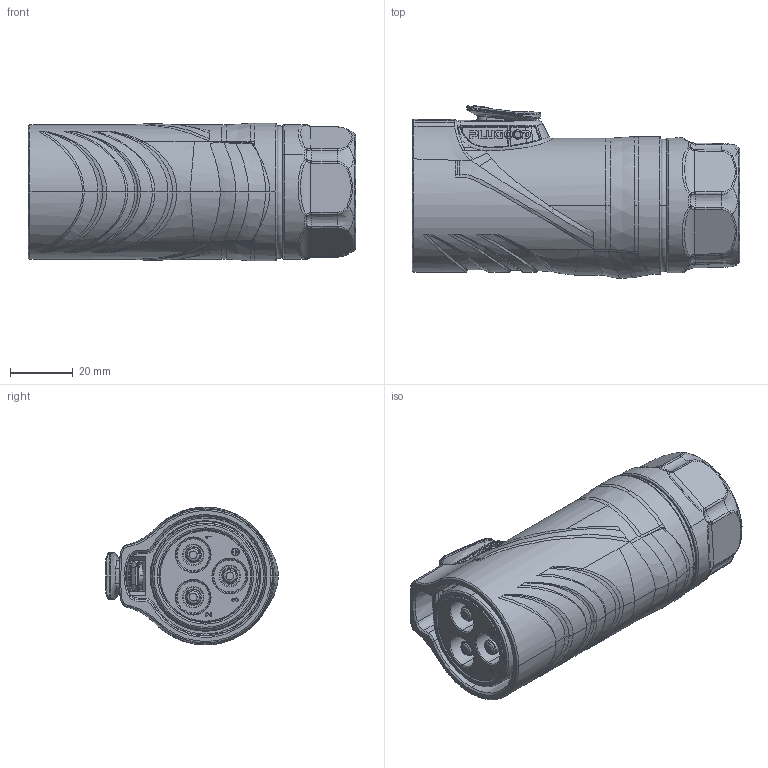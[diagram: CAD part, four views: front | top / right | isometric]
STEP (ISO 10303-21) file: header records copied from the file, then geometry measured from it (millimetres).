
FILE_DESCRIPTION (( 'STEP AP214' ), '1' );
FILE_NAME ('PLG36 3芯直头插头正装半金属70A压接(5.0).STEP', '2026-06-25T03:48:09', ( '微软用户' ), ( '微软中国' ), 'SwSTEP 2.0', 'SolidWorks 2024', '' );
FILE_SCHEMA (( 'AUTOMOTIVE_DESIGN' ));
Length unit declared in the file: millimetre
Products named in the file (1): PLG36 3芯直头插头正装半金属70A压接(5.0)
Bounding box: 104.44 x 55.09 x 44 mm (x, y, z)
Volume: 143698 mm3; surface area: 34051.2 mm2
Topology: 2 solids, 9 shells, 1408 faces, 4038 edges, 2666 vertices
Faces by surface type: bspline 583, plane 292, cylinder 255, torus 171, cone 76, sphere 31
Entity records: 89021 total; most frequent: CARTESIAN_POINT 57891, ORIENTED_EDGE 8026, DIRECTION 4435, EDGE_CURVE 4013, VERTEX_POINT 2666, B_SPLINE_CURVE_WITH_KNOTS 1965, AXIS2_PLACEMENT_3D 1732, EDGE_LOOP 1467
